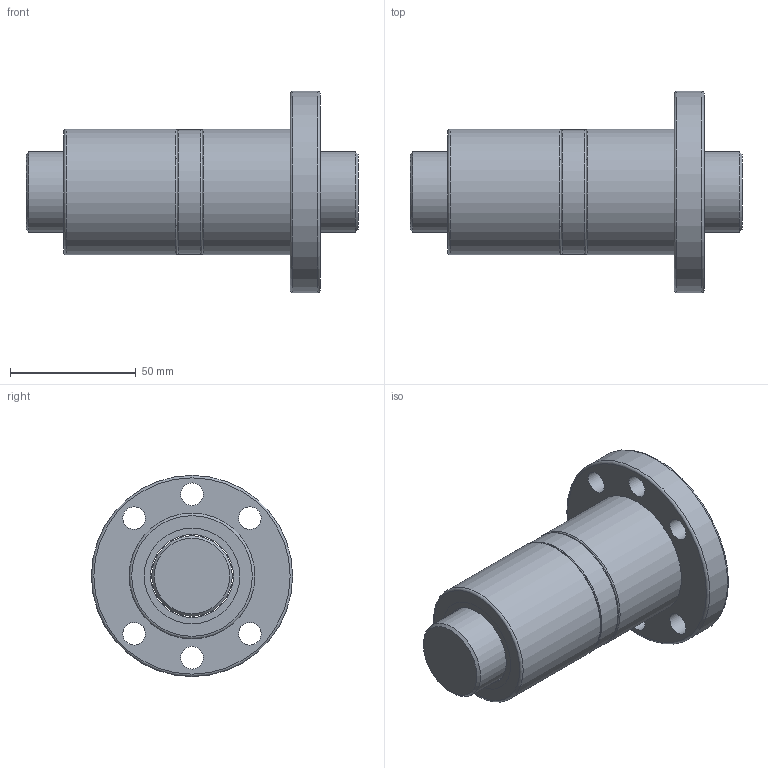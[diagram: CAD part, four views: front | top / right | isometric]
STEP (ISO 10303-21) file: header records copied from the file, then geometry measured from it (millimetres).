
FILE_DESCRIPTION(/* description */ (''),/* implementation_level */ '2;1');
FILE_NAME(/* name */ 'DFU3205',/* time_stamp */ '2007-10-26T10:55:45+08:00',/* author */ (''),/* organization */ (''),/* preprocessor_version */ 'ST-DEVELOPER v9',/* originating_system */ 'EDS PLM SOLUTIONS - UNIGRAPHICS NX 1.0',/* authorisation */ '');
FILE_SCHEMA (('CONFIG_CONTROL_DESIGN'));
Length unit declared in the file: millimetre
Products named in the file (1): FANNDA0400cv
Bounding box: 132 x 80 x 80 mm (x, y, z)
Volume: 250709.7 mm3; surface area: 60001 mm2
Topology: 6 solids, 6 shells, 44 faces, 83 edges, 54 vertices
Faces by surface type: cylinder 20, plane 15, torus 7, cone 2
Full cylindrical faces by diameter (mm): 9 x6, 32 x1, 33 x5, 38 x4, 49.5 x1, 50 x2, 80 x1
Entity records: 1054 total; most frequent: DIRECTION 188, CARTESIAN_POINT 143, EDGE_LOOP 98, ORIENTED_EDGE 98, AXIS2_PLACEMENT_3D 94, FACE_BOUND 81, VERTEX_POINT 49, EDGE_CURVE 49
